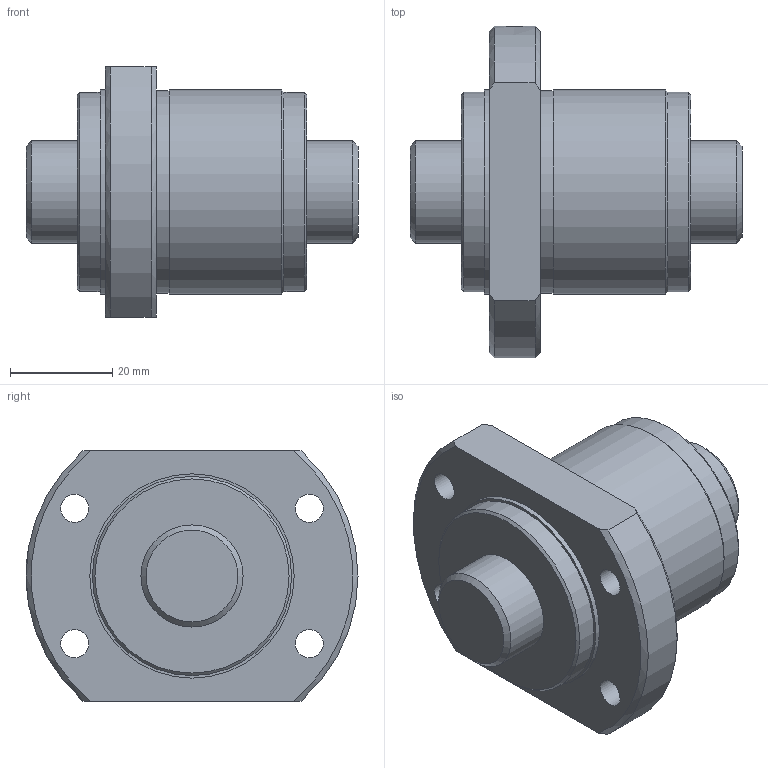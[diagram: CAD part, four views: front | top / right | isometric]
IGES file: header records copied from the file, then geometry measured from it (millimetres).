
Start section: Data from Parasolid IGES Translator 26.0.171, Copyright(c) 2006 Siemens PLM Software. All Rights Reserved.
Global section: file name: SBK2010-5.6RRG0+65LC0(0000).igs; native system: By Siemens PLM Incorporated; preprocessor: XPlus GENERIC/IGES 26.0.171; author: Noname; organization: Noname; date: 20240528.111931; units: millimetre
Bounding box: 65 x 65 x 49 mm (x, y, z)
Surface area: 19402.2 mm2 (no closed solid volume)
Topology: 0 solids, 0 shells, 35 faces, 159 edges, 134 vertices
Faces by surface type: revolution 25, extrusion 10
